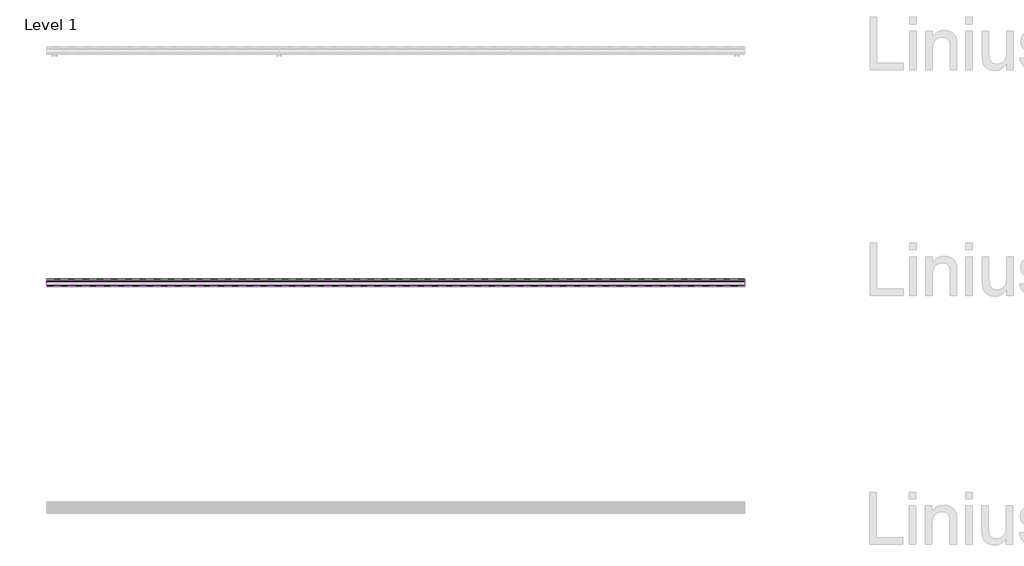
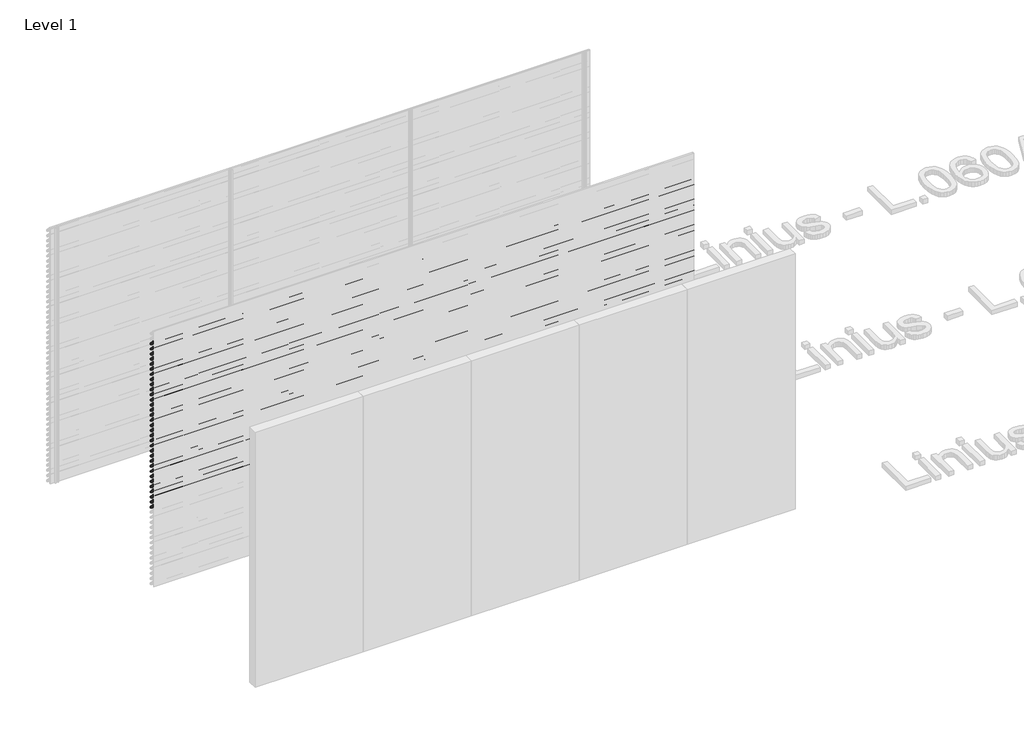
# One storey, part 137 of 153: 33 proxies.
"""IFC4 building model written with IfcOpenShell, lengths in millimetres."""

from ifc_helpers import new_model, si_unit, point, frame, frame_2d, origin, place, context, project, spatial, polyline, circle_curve, trimmed, segment, composite_curve, outline, extrude, element, save

model = new_model("IFC4")

# Units and contexts
model_context = context("Model", 3, world=origin())
ifc_project = project(units=[si_unit("LENGTHUNIT", "METRE", prefix="MILLI")], contexts=[model_context])

# Site, building, storey
site = spatial("IfcSite", under=ifc_project)
building = spatial("IfcBuilding", under=site)
storey = spatial("IfcBuildingStorey", under=building, Name="Level 1", Elevation=0.0)

# Proxies
placement = place(None, origin())
element("IfcBuildingElementProxy", 1, Name="Wall Sweeps", at=placement, inside=storey, context=model_context, shape_type="SweptSolid", body=[
    extrude(outline(composite_curve([segment(polyline([(64485.0540136, 2880.0), (64499.874191, 2878.7034025), (64549.0540136, 2825.0102749), (64549.0540136, 2813.6108187)]), True, "CONTINUOUS"), segment(trimmed(circle_curve(frame_2d((64545.7883652, 2813.897153)), 3.2781774), [point((64549.0540136, 2813.6108187))], [point((64546.4639442, 2810.6893438))], False, "CARTESIAN"), True, "CONTINUOUS"), segment(polyline([(64546.4639442, 2810.6893438), (64534.1895723, 2811.6282758), (64485.0540136, 2865.2730773), (64485.0540136, 2880.0)]), True, "CONTINUOUS")], self_intersect=False), holes=[composite_curve([segment(polyline([(64499.1621773, 2877.2599659), (64486.5540136, 2878.3630372), (64486.5540136, 2865.856213), (64534.8952036, 2813.0786805), (64546.3312542, 2812.2038762)]), True, "CONTINUOUS"), segment(trimmed(circle_curve(frame_2d((64545.7883652, 2813.897153)), 1.7781774), [point((64546.3312542, 2812.2038762))], [point((64547.5540136, 2813.6864389))], True, "CARTESIAN"), True, "CONTINUOUS"), segment(polyline([(64547.5540136, 2813.6864389), (64547.5540136, 2824.4271392), (64499.1621773, 2877.2599659)]), True, "CONTINUOUS")], self_intersect=False)]), frame((44966.6208097, 0.0, 0.0), z_axis=(1.0, 0.0, 0.0), x_axis=(0.0, 1.0, 0.0)), (0.0, 0.0, 1.0), 6000.0),
])
element("IfcBuildingElementProxy", 2, Name="Wall Sweeps", at=placement, inside=storey, context=model_context, shape_type="SweptSolid", body=[
    extrude(outline(composite_curve([segment(polyline([(64485.0540136, 2820.0), (64499.874191, 2818.7034025), (64549.0540136, 2765.0102749), (64549.0540136, 2753.6108187)]), True, "CONTINUOUS"), segment(trimmed(circle_curve(frame_2d((64545.7883652, 2753.897153)), 3.2781774), [point((64549.0540136, 2753.6108187))], [point((64546.4639442, 2750.6893438))], False, "CARTESIAN"), True, "CONTINUOUS"), segment(polyline([(64546.4639442, 2750.6893438), (64534.1895723, 2751.6282758), (64485.0540136, 2805.2730773), (64485.0540136, 2820.0)]), True, "CONTINUOUS")], self_intersect=False), holes=[composite_curve([segment(polyline([(64499.1621773, 2817.2599659), (64486.5540136, 2818.3630372), (64486.5540136, 2805.856213), (64534.8952036, 2753.0786805), (64546.3312542, 2752.2038762)]), True, "CONTINUOUS"), segment(trimmed(circle_curve(frame_2d((64545.7883652, 2753.897153)), 1.7781774), [point((64546.3312542, 2752.2038762))], [point((64547.5540136, 2753.6864389))], True, "CARTESIAN"), True, "CONTINUOUS"), segment(polyline([(64547.5540136, 2753.6864389), (64547.5540136, 2764.4271392), (64499.1621773, 2817.2599659)]), True, "CONTINUOUS")], self_intersect=False)]), frame((44966.6208097, 0.0, 0.0), z_axis=(1.0, 0.0, 0.0), x_axis=(0.0, 1.0, 0.0)), (0.0, 0.0, 1.0), 6000.0),
])
element("IfcBuildingElementProxy", 3, Name="Wall Sweeps", at=placement, inside=storey, context=model_context, shape_type="SweptSolid", body=[
    extrude(outline(composite_curve([segment(polyline([(64485.0540136, 2760.0), (64499.874191, 2758.7034025), (64549.0540136, 2705.0102749), (64549.0540136, 2693.6108187)]), True, "CONTINUOUS"), segment(trimmed(circle_curve(frame_2d((64545.7883652, 2693.897153)), 3.2781774), [point((64549.0540136, 2693.6108187))], [point((64546.4639442, 2690.6893438))], False, "CARTESIAN"), True, "CONTINUOUS"), segment(polyline([(64546.4639442, 2690.6893438), (64534.1895723, 2691.6282758), (64485.0540136, 2745.2730773), (64485.0540136, 2760.0)]), True, "CONTINUOUS")], self_intersect=False), holes=[composite_curve([segment(polyline([(64499.1621773, 2757.2599659), (64486.5540136, 2758.3630372), (64486.5540136, 2745.856213), (64534.8952036, 2693.0786805), (64546.3312542, 2692.2038762)]), True, "CONTINUOUS"), segment(trimmed(circle_curve(frame_2d((64545.7883652, 2693.897153)), 1.7781774), [point((64546.3312542, 2692.2038762))], [point((64547.5540136, 2693.6864389))], True, "CARTESIAN"), True, "CONTINUOUS"), segment(polyline([(64547.5540136, 2693.6864389), (64547.5540136, 2704.4271392), (64499.1621773, 2757.2599659)]), True, "CONTINUOUS")], self_intersect=False)]), frame((44966.6208097, 0.0, 0.0), z_axis=(1.0, 0.0, 0.0), x_axis=(0.0, 1.0, 0.0)), (0.0, 0.0, 1.0), 6000.0),
])
element("IfcBuildingElementProxy", 4, Name="Wall Sweeps", at=placement, inside=storey, context=model_context, shape_type="SweptSolid", body=[
    extrude(outline(composite_curve([segment(polyline([(64485.0540136, 2700.0), (64499.874191, 2698.7034025), (64549.0540136, 2645.0102749), (64549.0540136, 2633.6108187)]), True, "CONTINUOUS"), segment(trimmed(circle_curve(frame_2d((64545.7883652, 2633.897153)), 3.2781774), [point((64549.0540136, 2633.6108187))], [point((64546.4639442, 2630.6893438))], False, "CARTESIAN"), True, "CONTINUOUS"), segment(polyline([(64546.4639442, 2630.6893438), (64534.1895723, 2631.6282758), (64485.0540136, 2685.2730773), (64485.0540136, 2700.0)]), True, "CONTINUOUS")], self_intersect=False), holes=[composite_curve([segment(polyline([(64499.1621773, 2697.2599659), (64486.5540136, 2698.3630372), (64486.5540136, 2685.856213), (64534.8952036, 2633.0786805), (64546.3312542, 2632.2038762)]), True, "CONTINUOUS"), segment(trimmed(circle_curve(frame_2d((64545.7883652, 2633.897153)), 1.7781774), [point((64546.3312542, 2632.2038762))], [point((64547.5540136, 2633.6864389))], True, "CARTESIAN"), True, "CONTINUOUS"), segment(polyline([(64547.5540136, 2633.6864389), (64547.5540136, 2644.4271392), (64499.1621773, 2697.2599659)]), True, "CONTINUOUS")], self_intersect=False)]), frame((44966.6208097, 0.0, 0.0), z_axis=(1.0, 0.0, 0.0), x_axis=(0.0, 1.0, 0.0)), (0.0, 0.0, 1.0), 6000.0),
])
element("IfcBuildingElementProxy", 5, Name="Wall Sweeps", at=placement, inside=storey, context=model_context, shape_type="SweptSolid", body=[
    extrude(outline(composite_curve([segment(polyline([(64485.0540136, 2640.0), (64499.874191, 2638.7034025), (64549.0540136, 2585.0102749), (64549.0540136, 2573.6108187)]), True, "CONTINUOUS"), segment(trimmed(circle_curve(frame_2d((64545.7883652, 2573.897153)), 3.2781774), [point((64549.0540136, 2573.6108187))], [point((64546.4639442, 2570.6893438))], False, "CARTESIAN"), True, "CONTINUOUS"), segment(polyline([(64546.4639442, 2570.6893438), (64534.1895723, 2571.6282758), (64485.0540136, 2625.2730773), (64485.0540136, 2640.0)]), True, "CONTINUOUS")], self_intersect=False), holes=[composite_curve([segment(polyline([(64499.1621773, 2637.2599659), (64486.5540136, 2638.3630372), (64486.5540136, 2625.856213), (64534.8952036, 2573.0786805), (64546.3312542, 2572.2038762)]), True, "CONTINUOUS"), segment(trimmed(circle_curve(frame_2d((64545.7883652, 2573.897153)), 1.7781774), [point((64546.3312542, 2572.2038762))], [point((64547.5540136, 2573.6864389))], True, "CARTESIAN"), True, "CONTINUOUS"), segment(polyline([(64547.5540136, 2573.6864389), (64547.5540136, 2584.4271392), (64499.1621773, 2637.2599659)]), True, "CONTINUOUS")], self_intersect=False)]), frame((44966.6208097, 0.0, 0.0), z_axis=(1.0, 0.0, 0.0), x_axis=(0.0, 1.0, 0.0)), (0.0, 0.0, 1.0), 6000.0),
])
element("IfcBuildingElementProxy", 6, Name="Wall Sweeps", at=placement, inside=storey, context=model_context, shape_type="SweptSolid", body=[
    extrude(outline(composite_curve([segment(polyline([(64485.0540136, 2580.0), (64499.874191, 2578.7034025), (64549.0540136, 2525.0102749), (64549.0540136, 2513.6108187)]), True, "CONTINUOUS"), segment(trimmed(circle_curve(frame_2d((64545.7883652, 2513.897153)), 3.2781774), [point((64549.0540136, 2513.6108187))], [point((64546.4639442, 2510.6893438))], False, "CARTESIAN"), True, "CONTINUOUS"), segment(polyline([(64546.4639442, 2510.6893438), (64534.1895723, 2511.6282758), (64485.0540136, 2565.2730773), (64485.0540136, 2580.0)]), True, "CONTINUOUS")], self_intersect=False), holes=[composite_curve([segment(polyline([(64499.1621773, 2577.2599659), (64486.5540136, 2578.3630372), (64486.5540136, 2565.856213), (64534.8952036, 2513.0786805), (64546.3312542, 2512.2038762)]), True, "CONTINUOUS"), segment(trimmed(circle_curve(frame_2d((64545.7883652, 2513.897153)), 1.7781774), [point((64546.3312542, 2512.2038762))], [point((64547.5540136, 2513.6864389))], True, "CARTESIAN"), True, "CONTINUOUS"), segment(polyline([(64547.5540136, 2513.6864389), (64547.5540136, 2524.4271392), (64499.1621773, 2577.2599659)]), True, "CONTINUOUS")], self_intersect=False)]), frame((44966.6208097, 0.0, 0.0), z_axis=(1.0, 0.0, 0.0), x_axis=(0.0, 1.0, 0.0)), (0.0, 0.0, 1.0), 6000.0),
])
element("IfcBuildingElementProxy", 7, Name="Wall Sweeps", at=placement, inside=storey, context=model_context, shape_type="SweptSolid", body=[
    extrude(outline(composite_curve([segment(polyline([(64485.0540136, 2520.0), (64499.874191, 2518.7034025), (64549.0540136, 2465.0102749), (64549.0540136, 2453.6108187)]), True, "CONTINUOUS"), segment(trimmed(circle_curve(frame_2d((64545.7883652, 2453.897153)), 3.2781774), [point((64549.0540136, 2453.6108187))], [point((64546.4639442, 2450.6893438))], False, "CARTESIAN"), True, "CONTINUOUS"), segment(polyline([(64546.4639442, 2450.6893438), (64534.1895723, 2451.6282758), (64485.0540136, 2505.2730773), (64485.0540136, 2520.0)]), True, "CONTINUOUS")], self_intersect=False), holes=[composite_curve([segment(polyline([(64499.1621773, 2517.2599659), (64486.5540136, 2518.3630372), (64486.5540136, 2505.856213), (64534.8952036, 2453.0786805), (64546.3312542, 2452.2038762)]), True, "CONTINUOUS"), segment(trimmed(circle_curve(frame_2d((64545.7883652, 2453.897153)), 1.7781774), [point((64546.3312542, 2452.2038762))], [point((64547.5540136, 2453.6864389))], True, "CARTESIAN"), True, "CONTINUOUS"), segment(polyline([(64547.5540136, 2453.6864389), (64547.5540136, 2464.4271392), (64499.1621773, 2517.2599659)]), True, "CONTINUOUS")], self_intersect=False)]), frame((44966.6208097, 0.0, 0.0), z_axis=(1.0, 0.0, 0.0), x_axis=(0.0, 1.0, 0.0)), (0.0, 0.0, 1.0), 6000.0),
])
element("IfcBuildingElementProxy", 8, Name="Wall Sweeps", at=placement, inside=storey, context=model_context, shape_type="SweptSolid", body=[
    extrude(outline(composite_curve([segment(polyline([(64485.0540136, 2460.0), (64499.874191, 2458.7034025), (64549.0540136, 2405.0102749), (64549.0540136, 2393.6108187)]), True, "CONTINUOUS"), segment(trimmed(circle_curve(frame_2d((64545.7883652, 2393.897153)), 3.2781774), [point((64549.0540136, 2393.6108187))], [point((64546.4639442, 2390.6893438))], False, "CARTESIAN"), True, "CONTINUOUS"), segment(polyline([(64546.4639442, 2390.6893438), (64534.1895723, 2391.6282758), (64485.0540136, 2445.2730773), (64485.0540136, 2460.0)]), True, "CONTINUOUS")], self_intersect=False), holes=[composite_curve([segment(polyline([(64499.1621773, 2457.2599659), (64486.5540136, 2458.3630372), (64486.5540136, 2445.856213), (64534.8952036, 2393.0786805), (64546.3312542, 2392.2038762)]), True, "CONTINUOUS"), segment(trimmed(circle_curve(frame_2d((64545.7883652, 2393.897153)), 1.7781774), [point((64546.3312542, 2392.2038762))], [point((64547.5540136, 2393.6864389))], True, "CARTESIAN"), True, "CONTINUOUS"), segment(polyline([(64547.5540136, 2393.6864389), (64547.5540136, 2404.4271392), (64499.1621773, 2457.2599659)]), True, "CONTINUOUS")], self_intersect=False)]), frame((44966.6208097, 0.0, 0.0), z_axis=(1.0, 0.0, 0.0), x_axis=(0.0, 1.0, 0.0)), (0.0, 0.0, 1.0), 6000.0),
])
element("IfcBuildingElementProxy", 9, Name="Wall Sweeps", at=placement, inside=storey, context=model_context, shape_type="SweptSolid", body=[
    extrude(outline(composite_curve([segment(polyline([(64485.0540136, 2400.0), (64499.874191, 2398.7034025), (64549.0540136, 2345.0102749), (64549.0540136, 2333.6108187)]), True, "CONTINUOUS"), segment(trimmed(circle_curve(frame_2d((64545.7883652, 2333.897153)), 3.2781774), [point((64549.0540136, 2333.6108187))], [point((64546.4639442, 2330.6893438))], False, "CARTESIAN"), True, "CONTINUOUS"), segment(polyline([(64546.4639442, 2330.6893438), (64534.1895723, 2331.6282758), (64485.0540136, 2385.2730773), (64485.0540136, 2400.0)]), True, "CONTINUOUS")], self_intersect=False), holes=[composite_curve([segment(polyline([(64499.1621773, 2397.2599659), (64486.5540136, 2398.3630372), (64486.5540136, 2385.856213), (64534.8952036, 2333.0786805), (64546.3312542, 2332.2038762)]), True, "CONTINUOUS"), segment(trimmed(circle_curve(frame_2d((64545.7883652, 2333.897153)), 1.7781774), [point((64546.3312542, 2332.2038762))], [point((64547.5540136, 2333.6864389))], True, "CARTESIAN"), True, "CONTINUOUS"), segment(polyline([(64547.5540136, 2333.6864389), (64547.5540136, 2344.4271392), (64499.1621773, 2397.2599659)]), True, "CONTINUOUS")], self_intersect=False)]), frame((44966.6208097, 0.0, 0.0), z_axis=(1.0, 0.0, 0.0), x_axis=(0.0, 1.0, 0.0)), (0.0, 0.0, 1.0), 6000.0),
])
element("IfcBuildingElementProxy", 10, Name="Wall Sweeps", at=placement, inside=storey, context=model_context, shape_type="SweptSolid", body=[
    extrude(outline(composite_curve([segment(polyline([(64485.0540136, 2340.0), (64499.874191, 2338.7034025), (64549.0540136, 2285.0102749), (64549.0540136, 2273.6108187)]), True, "CONTINUOUS"), segment(trimmed(circle_curve(frame_2d((64545.7883652, 2273.897153)), 3.2781774), [point((64549.0540136, 2273.6108187))], [point((64546.4639442, 2270.6893438))], False, "CARTESIAN"), True, "CONTINUOUS"), segment(polyline([(64546.4639442, 2270.6893438), (64534.1895723, 2271.6282758), (64485.0540136, 2325.2730773), (64485.0540136, 2340.0)]), True, "CONTINUOUS")], self_intersect=False), holes=[composite_curve([segment(polyline([(64499.1621773, 2337.2599659), (64486.5540136, 2338.3630372), (64486.5540136, 2325.856213), (64534.8952036, 2273.0786805), (64546.3312542, 2272.2038762)]), True, "CONTINUOUS"), segment(trimmed(circle_curve(frame_2d((64545.7883652, 2273.897153)), 1.7781774), [point((64546.3312542, 2272.2038762))], [point((64547.5540136, 2273.6864389))], True, "CARTESIAN"), True, "CONTINUOUS"), segment(polyline([(64547.5540136, 2273.6864389), (64547.5540136, 2284.4271392), (64499.1621773, 2337.2599659)]), True, "CONTINUOUS")], self_intersect=False)]), frame((44966.6208097, 0.0, 0.0), z_axis=(1.0, 0.0, 0.0), x_axis=(0.0, 1.0, 0.0)), (0.0, 0.0, 1.0), 6000.0),
])
element("IfcBuildingElementProxy", 11, Name="Wall Sweeps", at=placement, inside=storey, context=model_context, shape_type="SweptSolid", body=[
    extrude(outline(composite_curve([segment(polyline([(64485.0540136, 2280.0), (64499.874191, 2278.7034025), (64549.0540136, 2225.0102749), (64549.0540136, 2213.6108187)]), True, "CONTINUOUS"), segment(trimmed(circle_curve(frame_2d((64545.7883652, 2213.897153)), 3.2781774), [point((64549.0540136, 2213.6108187))], [point((64546.4639442, 2210.6893438))], False, "CARTESIAN"), True, "CONTINUOUS"), segment(polyline([(64546.4639442, 2210.6893438), (64534.1895723, 2211.6282758), (64485.0540136, 2265.2730773), (64485.0540136, 2280.0)]), True, "CONTINUOUS")], self_intersect=False), holes=[composite_curve([segment(polyline([(64499.1621773, 2277.2599659), (64486.5540136, 2278.3630372), (64486.5540136, 2265.856213), (64534.8952036, 2213.0786805), (64546.3312542, 2212.2038762)]), True, "CONTINUOUS"), segment(trimmed(circle_curve(frame_2d((64545.7883652, 2213.897153)), 1.7781774), [point((64546.3312542, 2212.2038762))], [point((64547.5540136, 2213.6864389))], True, "CARTESIAN"), True, "CONTINUOUS"), segment(polyline([(64547.5540136, 2213.6864389), (64547.5540136, 2224.4271392), (64499.1621773, 2277.2599659)]), True, "CONTINUOUS")], self_intersect=False)]), frame((44966.6208097, 0.0, 0.0), z_axis=(1.0, 0.0, 0.0), x_axis=(0.0, 1.0, 0.0)), (0.0, 0.0, 1.0), 6000.0),
])
element("IfcBuildingElementProxy", 12, Name="Wall Sweeps", at=placement, inside=storey, context=model_context, shape_type="SweptSolid", body=[
    extrude(outline(composite_curve([segment(polyline([(64485.0540136, 2220.0), (64499.874191, 2218.7034025), (64549.0540136, 2165.0102749), (64549.0540136, 2153.6108187)]), True, "CONTINUOUS"), segment(trimmed(circle_curve(frame_2d((64545.7883652, 2153.897153)), 3.2781774), [point((64549.0540136, 2153.6108187))], [point((64546.4639442, 2150.6893438))], False, "CARTESIAN"), True, "CONTINUOUS"), segment(polyline([(64546.4639442, 2150.6893438), (64534.1895723, 2151.6282758), (64485.0540136, 2205.2730773), (64485.0540136, 2220.0)]), True, "CONTINUOUS")], self_intersect=False), holes=[composite_curve([segment(polyline([(64499.1621773, 2217.2599659), (64486.5540136, 2218.3630372), (64486.5540136, 2205.856213), (64534.8952036, 2153.0786805), (64546.3312542, 2152.2038762)]), True, "CONTINUOUS"), segment(trimmed(circle_curve(frame_2d((64545.7883652, 2153.897153)), 1.7781774), [point((64546.3312542, 2152.2038762))], [point((64547.5540136, 2153.6864389))], True, "CARTESIAN"), True, "CONTINUOUS"), segment(polyline([(64547.5540136, 2153.6864389), (64547.5540136, 2164.4271392), (64499.1621773, 2217.2599659)]), True, "CONTINUOUS")], self_intersect=False)]), frame((44966.6208097, 0.0, 0.0), z_axis=(1.0, 0.0, 0.0), x_axis=(0.0, 1.0, 0.0)), (0.0, 0.0, 1.0), 6000.0),
])
element("IfcBuildingElementProxy", 13, Name="Wall Sweeps", at=placement, inside=storey, context=model_context, shape_type="SweptSolid", body=[
    extrude(outline(composite_curve([segment(polyline([(64485.0540136, 2160.0), (64499.874191, 2158.7034025), (64549.0540136, 2105.0102749), (64549.0540136, 2093.6108187)]), True, "CONTINUOUS"), segment(trimmed(circle_curve(frame_2d((64545.7883652, 2093.897153)), 3.2781774), [point((64549.0540136, 2093.6108187))], [point((64546.4639442, 2090.6893438))], False, "CARTESIAN"), True, "CONTINUOUS"), segment(polyline([(64546.4639442, 2090.6893438), (64534.1895723, 2091.6282758), (64485.0540136, 2145.2730773), (64485.0540136, 2160.0)]), True, "CONTINUOUS")], self_intersect=False), holes=[composite_curve([segment(polyline([(64499.1621773, 2157.2599659), (64486.5540136, 2158.3630372), (64486.5540136, 2145.856213), (64534.8952036, 2093.0786805), (64546.3312542, 2092.2038762)]), True, "CONTINUOUS"), segment(trimmed(circle_curve(frame_2d((64545.7883652, 2093.897153)), 1.7781774), [point((64546.3312542, 2092.2038762))], [point((64547.5540136, 2093.6864389))], True, "CARTESIAN"), True, "CONTINUOUS"), segment(polyline([(64547.5540136, 2093.6864389), (64547.5540136, 2104.4271392), (64499.1621773, 2157.2599659)]), True, "CONTINUOUS")], self_intersect=False)]), frame((44966.6208097, 0.0, 0.0), z_axis=(1.0, 0.0, 0.0), x_axis=(0.0, 1.0, 0.0)), (0.0, 0.0, 1.0), 6000.0),
])
element("IfcBuildingElementProxy", 14, Name="Wall Sweeps", at=placement, inside=storey, context=model_context, shape_type="SweptSolid", body=[
    extrude(outline(composite_curve([segment(polyline([(64485.0540136, 2100.0), (64499.874191, 2098.7034025), (64549.0540136, 2045.0102749), (64549.0540136, 2033.6108187)]), True, "CONTINUOUS"), segment(trimmed(circle_curve(frame_2d((64545.7883652, 2033.897153)), 3.2781774), [point((64549.0540136, 2033.6108187))], [point((64546.4639442, 2030.6893438))], False, "CARTESIAN"), True, "CONTINUOUS"), segment(polyline([(64546.4639442, 2030.6893438), (64534.1895723, 2031.6282758), (64485.0540136, 2085.2730773), (64485.0540136, 2100.0)]), True, "CONTINUOUS")], self_intersect=False), holes=[composite_curve([segment(polyline([(64499.1621773, 2097.2599659), (64486.5540136, 2098.3630372), (64486.5540136, 2085.856213), (64534.8952036, 2033.0786805), (64546.3312542, 2032.2038762)]), True, "CONTINUOUS"), segment(trimmed(circle_curve(frame_2d((64545.7883652, 2033.897153)), 1.7781774), [point((64546.3312542, 2032.2038762))], [point((64547.5540136, 2033.6864389))], True, "CARTESIAN"), True, "CONTINUOUS"), segment(polyline([(64547.5540136, 2033.6864389), (64547.5540136, 2044.4271392), (64499.1621773, 2097.2599659)]), True, "CONTINUOUS")], self_intersect=False)]), frame((44966.6208097, 0.0, 0.0), z_axis=(1.0, 0.0, 0.0), x_axis=(0.0, 1.0, 0.0)), (0.0, 0.0, 1.0), 6000.0),
])
element("IfcBuildingElementProxy", 15, Name="Wall Sweeps", at=placement, inside=storey, context=model_context, shape_type="SweptSolid", body=[
    extrude(outline(composite_curve([segment(polyline([(64485.0540136, 2040.0), (64499.874191, 2038.7034025), (64549.0540136, 1985.0102749), (64549.0540136, 1973.6108187)]), True, "CONTINUOUS"), segment(trimmed(circle_curve(frame_2d((64545.7883652, 1973.897153)), 3.2781774), [point((64549.0540136, 1973.6108187))], [point((64546.4639442, 1970.6893438))], False, "CARTESIAN"), True, "CONTINUOUS"), segment(polyline([(64546.4639442, 1970.6893438), (64534.1895723, 1971.6282758), (64485.0540136, 2025.2730773), (64485.0540136, 2040.0)]), True, "CONTINUOUS")], self_intersect=False), holes=[composite_curve([segment(polyline([(64499.1621773, 2037.2599659), (64486.5540136, 2038.3630372), (64486.5540136, 2025.856213), (64534.8952036, 1973.0786805), (64546.3312542, 1972.2038762)]), True, "CONTINUOUS"), segment(trimmed(circle_curve(frame_2d((64545.7883652, 1973.897153)), 1.7781774), [point((64546.3312542, 1972.2038762))], [point((64547.5540136, 1973.6864389))], True, "CARTESIAN"), True, "CONTINUOUS"), segment(polyline([(64547.5540136, 1973.6864389), (64547.5540136, 1984.4271392), (64499.1621773, 2037.2599659)]), True, "CONTINUOUS")], self_intersect=False)]), frame((44966.6208097, 0.0, 0.0), z_axis=(1.0, 0.0, 0.0), x_axis=(0.0, 1.0, 0.0)), (0.0, 0.0, 1.0), 6000.0),
])
element("IfcBuildingElementProxy", 16, Name="Wall Sweeps", at=placement, inside=storey, context=model_context, shape_type="SweptSolid", body=[
    extrude(outline(composite_curve([segment(polyline([(64485.0540136, 1980.0), (64499.874191, 1978.7034025), (64549.0540136, 1925.0102749), (64549.0540136, 1913.6108187)]), True, "CONTINUOUS"), segment(trimmed(circle_curve(frame_2d((64545.7883652, 1913.897153)), 3.2781774), [point((64549.0540136, 1913.6108187))], [point((64546.4639442, 1910.6893438))], False, "CARTESIAN"), True, "CONTINUOUS"), segment(polyline([(64546.4639442, 1910.6893438), (64534.1895723, 1911.6282758), (64485.0540136, 1965.2730773), (64485.0540136, 1980.0)]), True, "CONTINUOUS")], self_intersect=False), holes=[composite_curve([segment(polyline([(64499.1621773, 1977.2599659), (64486.5540136, 1978.3630372), (64486.5540136, 1965.856213), (64534.8952036, 1913.0786805), (64546.3312542, 1912.2038762)]), True, "CONTINUOUS"), segment(trimmed(circle_curve(frame_2d((64545.7883652, 1913.897153)), 1.7781774), [point((64546.3312542, 1912.2038762))], [point((64547.5540136, 1913.6864389))], True, "CARTESIAN"), True, "CONTINUOUS"), segment(polyline([(64547.5540136, 1913.6864389), (64547.5540136, 1924.4271392), (64499.1621773, 1977.2599659)]), True, "CONTINUOUS")], self_intersect=False)]), frame((44966.6208097, 0.0, 0.0), z_axis=(1.0, 0.0, 0.0), x_axis=(0.0, 1.0, 0.0)), (0.0, 0.0, 1.0), 6000.0),
])
element("IfcBuildingElementProxy", 17, Name="Wall Sweeps", at=placement, inside=storey, context=model_context, shape_type="SweptSolid", body=[
    extrude(outline(composite_curve([segment(polyline([(64485.0540136, 1920.0), (64499.874191, 1918.7034025), (64549.0540136, 1865.0102749), (64549.0540136, 1853.6108187)]), True, "CONTINUOUS"), segment(trimmed(circle_curve(frame_2d((64545.7883652, 1853.897153)), 3.2781774), [point((64549.0540136, 1853.6108187))], [point((64546.4639442, 1850.6893438))], False, "CARTESIAN"), True, "CONTINUOUS"), segment(polyline([(64546.4639442, 1850.6893438), (64534.1895723, 1851.6282758), (64485.0540136, 1905.2730773), (64485.0540136, 1920.0)]), True, "CONTINUOUS")], self_intersect=False), holes=[composite_curve([segment(polyline([(64499.1621773, 1917.2599659), (64486.5540136, 1918.3630372), (64486.5540136, 1905.856213), (64534.8952036, 1853.0786805), (64546.3312542, 1852.2038762)]), True, "CONTINUOUS"), segment(trimmed(circle_curve(frame_2d((64545.7883652, 1853.897153)), 1.7781774), [point((64546.3312542, 1852.2038762))], [point((64547.5540136, 1853.6864389))], True, "CARTESIAN"), True, "CONTINUOUS"), segment(polyline([(64547.5540136, 1853.6864389), (64547.5540136, 1864.4271392), (64499.1621773, 1917.2599659)]), True, "CONTINUOUS")], self_intersect=False)]), frame((44966.6208097, 0.0, 0.0), z_axis=(1.0, 0.0, 0.0), x_axis=(0.0, 1.0, 0.0)), (0.0, 0.0, 1.0), 6000.0),
])
element("IfcBuildingElementProxy", 18, Name="Wall Sweeps", at=placement, inside=storey, context=model_context, shape_type="SweptSolid", body=[
    extrude(outline(composite_curve([segment(polyline([(64485.0540136, 1860.0), (64499.874191, 1858.7034025), (64549.0540136, 1805.0102749), (64549.0540136, 1793.6108187)]), True, "CONTINUOUS"), segment(trimmed(circle_curve(frame_2d((64545.7883652, 1793.897153)), 3.2781774), [point((64549.0540136, 1793.6108187))], [point((64546.4639442, 1790.6893438))], False, "CARTESIAN"), True, "CONTINUOUS"), segment(polyline([(64546.4639442, 1790.6893438), (64534.1895723, 1791.6282758), (64485.0540136, 1845.2730773), (64485.0540136, 1860.0)]), True, "CONTINUOUS")], self_intersect=False), holes=[composite_curve([segment(polyline([(64499.1621773, 1857.2599659), (64486.5540136, 1858.3630372), (64486.5540136, 1845.856213), (64534.8952036, 1793.0786805), (64546.3312542, 1792.2038762)]), True, "CONTINUOUS"), segment(trimmed(circle_curve(frame_2d((64545.7883652, 1793.897153)), 1.7781774), [point((64546.3312542, 1792.2038762))], [point((64547.5540136, 1793.6864389))], True, "CARTESIAN"), True, "CONTINUOUS"), segment(polyline([(64547.5540136, 1793.6864389), (64547.5540136, 1804.4271392), (64499.1621773, 1857.2599659)]), True, "CONTINUOUS")], self_intersect=False)]), frame((44966.6208097, 0.0, 0.0), z_axis=(1.0, 0.0, 0.0), x_axis=(0.0, 1.0, 0.0)), (0.0, 0.0, 1.0), 6000.0),
])
element("IfcBuildingElementProxy", 19, Name="Wall Sweeps", at=placement, inside=storey, context=model_context, shape_type="SweptSolid", body=[
    extrude(outline(composite_curve([segment(polyline([(64485.0540136, 1800.0), (64499.874191, 1798.7034025), (64549.0540136, 1745.0102749), (64549.0540136, 1733.6108187)]), True, "CONTINUOUS"), segment(trimmed(circle_curve(frame_2d((64545.7883652, 1733.897153)), 3.2781774), [point((64549.0540136, 1733.6108187))], [point((64546.4639442, 1730.6893438))], False, "CARTESIAN"), True, "CONTINUOUS"), segment(polyline([(64546.4639442, 1730.6893438), (64534.1895723, 1731.6282758), (64485.0540136, 1785.2730773), (64485.0540136, 1800.0)]), True, "CONTINUOUS")], self_intersect=False), holes=[composite_curve([segment(polyline([(64499.1621773, 1797.2599659), (64486.5540136, 1798.3630372), (64486.5540136, 1785.856213), (64534.8952036, 1733.0786805), (64546.3312542, 1732.2038762)]), True, "CONTINUOUS"), segment(trimmed(circle_curve(frame_2d((64545.7883652, 1733.897153)), 1.7781774), [point((64546.3312542, 1732.2038762))], [point((64547.5540136, 1733.6864389))], True, "CARTESIAN"), True, "CONTINUOUS"), segment(polyline([(64547.5540136, 1733.6864389), (64547.5540136, 1744.4271392), (64499.1621773, 1797.2599659)]), True, "CONTINUOUS")], self_intersect=False)]), frame((44966.6208097, 0.0, 0.0), z_axis=(1.0, 0.0, 0.0), x_axis=(0.0, 1.0, 0.0)), (0.0, 0.0, 1.0), 6000.0),
])
element("IfcBuildingElementProxy", 20, Name="Wall Sweeps", at=placement, inside=storey, context=model_context, shape_type="SweptSolid", body=[
    extrude(outline(composite_curve([segment(polyline([(64485.0540136, 1740.0), (64499.874191, 1738.7034025), (64549.0540136, 1685.0102749), (64549.0540136, 1673.6108187)]), True, "CONTINUOUS"), segment(trimmed(circle_curve(frame_2d((64545.7883652, 1673.897153)), 3.2781774), [point((64549.0540136, 1673.6108187))], [point((64546.4639442, 1670.6893438))], False, "CARTESIAN"), True, "CONTINUOUS"), segment(polyline([(64546.4639442, 1670.6893438), (64534.1895723, 1671.6282758), (64485.0540136, 1725.2730773), (64485.0540136, 1740.0)]), True, "CONTINUOUS")], self_intersect=False), holes=[composite_curve([segment(polyline([(64499.1621773, 1737.2599659), (64486.5540136, 1738.3630372), (64486.5540136, 1725.856213), (64534.8952036, 1673.0786805), (64546.3312542, 1672.2038762)]), True, "CONTINUOUS"), segment(trimmed(circle_curve(frame_2d((64545.7883652, 1673.897153)), 1.7781774), [point((64546.3312542, 1672.2038762))], [point((64547.5540136, 1673.6864389))], True, "CARTESIAN"), True, "CONTINUOUS"), segment(polyline([(64547.5540136, 1673.6864389), (64547.5540136, 1684.4271392), (64499.1621773, 1737.2599659)]), True, "CONTINUOUS")], self_intersect=False)]), frame((44966.6208097, 0.0, 0.0), z_axis=(1.0, 0.0, 0.0), x_axis=(0.0, 1.0, 0.0)), (0.0, 0.0, 1.0), 6000.0),
])
element("IfcBuildingElementProxy", 21, Name="Wall Sweeps", at=placement, inside=storey, context=model_context, shape_type="SweptSolid", body=[
    extrude(outline(composite_curve([segment(polyline([(64485.0540136, 1680.0), (64499.874191, 1678.7034025), (64549.0540136, 1625.0102749), (64549.0540136, 1613.6108187)]), True, "CONTINUOUS"), segment(trimmed(circle_curve(frame_2d((64545.7883652, 1613.897153)), 3.2781774), [point((64549.0540136, 1613.6108187))], [point((64546.4639442, 1610.6893438))], False, "CARTESIAN"), True, "CONTINUOUS"), segment(polyline([(64546.4639442, 1610.6893438), (64534.1895723, 1611.6282758), (64485.0540136, 1665.2730773), (64485.0540136, 1680.0)]), True, "CONTINUOUS")], self_intersect=False), holes=[composite_curve([segment(polyline([(64499.1621773, 1677.2599659), (64486.5540136, 1678.3630372), (64486.5540136, 1665.856213), (64534.8952036, 1613.0786805), (64546.3312542, 1612.2038762)]), True, "CONTINUOUS"), segment(trimmed(circle_curve(frame_2d((64545.7883652, 1613.897153)), 1.7781774), [point((64546.3312542, 1612.2038762))], [point((64547.5540136, 1613.6864389))], True, "CARTESIAN"), True, "CONTINUOUS"), segment(polyline([(64547.5540136, 1613.6864389), (64547.5540136, 1624.4271392), (64499.1621773, 1677.2599659)]), True, "CONTINUOUS")], self_intersect=False)]), frame((44966.6208097, 0.0, 0.0), z_axis=(1.0, 0.0, 0.0), x_axis=(0.0, 1.0, 0.0)), (0.0, 0.0, 1.0), 6000.0),
])
element("IfcBuildingElementProxy", 22, Name="Wall Sweeps", at=placement, inside=storey, context=model_context, shape_type="SweptSolid", body=[
    extrude(outline(composite_curve([segment(polyline([(64485.0540136, 1620.0), (64499.874191, 1618.7034025), (64549.0540136, 1565.0102749), (64549.0540136, 1553.6108187)]), True, "CONTINUOUS"), segment(trimmed(circle_curve(frame_2d((64545.7883652, 1553.897153)), 3.2781774), [point((64549.0540136, 1553.6108187))], [point((64546.4639442, 1550.6893438))], False, "CARTESIAN"), True, "CONTINUOUS"), segment(polyline([(64546.4639442, 1550.6893438), (64534.1895723, 1551.6282758), (64485.0540136, 1605.2730773), (64485.0540136, 1620.0)]), True, "CONTINUOUS")], self_intersect=False), holes=[composite_curve([segment(polyline([(64499.1621773, 1617.2599659), (64486.5540136, 1618.3630372), (64486.5540136, 1605.856213), (64534.8952036, 1553.0786805), (64546.3312542, 1552.2038762)]), True, "CONTINUOUS"), segment(trimmed(circle_curve(frame_2d((64545.7883652, 1553.897153)), 1.7781774), [point((64546.3312542, 1552.2038762))], [point((64547.5540136, 1553.6864389))], True, "CARTESIAN"), True, "CONTINUOUS"), segment(polyline([(64547.5540136, 1553.6864389), (64547.5540136, 1564.4271392), (64499.1621773, 1617.2599659)]), True, "CONTINUOUS")], self_intersect=False)]), frame((44966.6208097, 0.0, 0.0), z_axis=(1.0, 0.0, 0.0), x_axis=(0.0, 1.0, 0.0)), (0.0, 0.0, 1.0), 6000.0),
])
element("IfcBuildingElementProxy", 23, Name="Wall Sweeps", at=placement, inside=storey, context=model_context, shape_type="SweptSolid", body=[
    extrude(outline(composite_curve([segment(polyline([(64485.0540136, 1560.0), (64499.874191, 1558.7034025), (64549.0540136, 1505.0102749), (64549.0540136, 1493.6108187)]), True, "CONTINUOUS"), segment(trimmed(circle_curve(frame_2d((64545.7883652, 1493.897153)), 3.2781774), [point((64549.0540136, 1493.6108187))], [point((64546.4639442, 1490.6893438))], False, "CARTESIAN"), True, "CONTINUOUS"), segment(polyline([(64546.4639442, 1490.6893438), (64534.1895723, 1491.6282758), (64485.0540136, 1545.2730773), (64485.0540136, 1560.0)]), True, "CONTINUOUS")], self_intersect=False), holes=[composite_curve([segment(polyline([(64499.1621773, 1557.2599659), (64486.5540136, 1558.3630372), (64486.5540136, 1545.856213), (64534.8952036, 1493.0786805), (64546.3312542, 1492.2038762)]), True, "CONTINUOUS"), segment(trimmed(circle_curve(frame_2d((64545.7883652, 1493.897153)), 1.7781774), [point((64546.3312542, 1492.2038762))], [point((64547.5540136, 1493.6864389))], True, "CARTESIAN"), True, "CONTINUOUS"), segment(polyline([(64547.5540136, 1493.6864389), (64547.5540136, 1504.4271392), (64499.1621773, 1557.2599659)]), True, "CONTINUOUS")], self_intersect=False)]), frame((44966.6208097, 0.0, 0.0), z_axis=(1.0, 0.0, 0.0), x_axis=(0.0, 1.0, 0.0)), (0.0, 0.0, 1.0), 6000.0),
])
element("IfcBuildingElementProxy", 24, Name="Wall Sweeps", at=placement, inside=storey, context=model_context, shape_type="SweptSolid", body=[
    extrude(outline(composite_curve([segment(polyline([(64485.0540136, 1500.0), (64499.874191, 1498.7034025), (64549.0540136, 1445.0102749), (64549.0540136, 1433.6108187)]), True, "CONTINUOUS"), segment(trimmed(circle_curve(frame_2d((64545.7883652, 1433.897153)), 3.2781774), [point((64549.0540136, 1433.6108187))], [point((64546.4639442, 1430.6893438))], False, "CARTESIAN"), True, "CONTINUOUS"), segment(polyline([(64546.4639442, 1430.6893438), (64534.1895723, 1431.6282758), (64485.0540136, 1485.2730773), (64485.0540136, 1500.0)]), True, "CONTINUOUS")], self_intersect=False), holes=[composite_curve([segment(polyline([(64499.1621773, 1497.2599659), (64486.5540136, 1498.3630372), (64486.5540136, 1485.856213), (64534.8952036, 1433.0786805), (64546.3312542, 1432.2038762)]), True, "CONTINUOUS"), segment(trimmed(circle_curve(frame_2d((64545.7883652, 1433.897153)), 1.7781774), [point((64546.3312542, 1432.2038762))], [point((64547.5540136, 1433.6864389))], True, "CARTESIAN"), True, "CONTINUOUS"), segment(polyline([(64547.5540136, 1433.6864389), (64547.5540136, 1444.4271392), (64499.1621773, 1497.2599659)]), True, "CONTINUOUS")], self_intersect=False)]), frame((44966.6208097, 0.0, 0.0), z_axis=(1.0, 0.0, 0.0), x_axis=(0.0, 1.0, 0.0)), (0.0, 0.0, 1.0), 6000.0),
])
element("IfcBuildingElementProxy", 25, Name="Wall Sweeps", at=placement, inside=storey, context=model_context, shape_type="SweptSolid", body=[
    extrude(outline(composite_curve([segment(polyline([(64485.0540136, 1440.0), (64499.874191, 1438.7034025), (64549.0540136, 1385.0102749), (64549.0540136, 1373.6108187)]), True, "CONTINUOUS"), segment(trimmed(circle_curve(frame_2d((64545.7883652, 1373.897153)), 3.2781774), [point((64549.0540136, 1373.6108187))], [point((64546.4639442, 1370.6893438))], False, "CARTESIAN"), True, "CONTINUOUS"), segment(polyline([(64546.4639442, 1370.6893438), (64534.1895723, 1371.6282758), (64485.0540136, 1425.2730773), (64485.0540136, 1440.0)]), True, "CONTINUOUS")], self_intersect=False), holes=[composite_curve([segment(polyline([(64499.1621773, 1437.2599659), (64486.5540136, 1438.3630372), (64486.5540136, 1425.856213), (64534.8952036, 1373.0786805), (64546.3312542, 1372.2038762)]), True, "CONTINUOUS"), segment(trimmed(circle_curve(frame_2d((64545.7883652, 1373.897153)), 1.7781774), [point((64546.3312542, 1372.2038762))], [point((64547.5540136, 1373.6864389))], True, "CARTESIAN"), True, "CONTINUOUS"), segment(polyline([(64547.5540136, 1373.6864389), (64547.5540136, 1384.4271392), (64499.1621773, 1437.2599659)]), True, "CONTINUOUS")], self_intersect=False)]), frame((44966.6208097, 0.0, 0.0), z_axis=(1.0, 0.0, 0.0), x_axis=(0.0, 1.0, 0.0)), (0.0, 0.0, 1.0), 6000.0),
])
element("IfcBuildingElementProxy", 26, Name="Wall Sweeps", at=placement, inside=storey, context=model_context, shape_type="SweptSolid", body=[
    extrude(outline(composite_curve([segment(polyline([(64485.0540136, 1380.0), (64499.874191, 1378.7034025), (64549.0540136, 1325.0102749), (64549.0540136, 1313.6108187)]), True, "CONTINUOUS"), segment(trimmed(circle_curve(frame_2d((64545.7883652, 1313.897153)), 3.2781774), [point((64549.0540136, 1313.6108187))], [point((64546.4639442, 1310.6893438))], False, "CARTESIAN"), True, "CONTINUOUS"), segment(polyline([(64546.4639442, 1310.6893438), (64534.1895723, 1311.6282758), (64485.0540136, 1365.2730773), (64485.0540136, 1380.0)]), True, "CONTINUOUS")], self_intersect=False), holes=[composite_curve([segment(polyline([(64499.1621773, 1377.2599659), (64486.5540136, 1378.3630372), (64486.5540136, 1365.856213), (64534.8952036, 1313.0786805), (64546.3312542, 1312.2038762)]), True, "CONTINUOUS"), segment(trimmed(circle_curve(frame_2d((64545.7883652, 1313.897153)), 1.7781774), [point((64546.3312542, 1312.2038762))], [point((64547.5540136, 1313.6864389))], True, "CARTESIAN"), True, "CONTINUOUS"), segment(polyline([(64547.5540136, 1313.6864389), (64547.5540136, 1324.4271392), (64499.1621773, 1377.2599659)]), True, "CONTINUOUS")], self_intersect=False)]), frame((44966.6208097, 0.0, 0.0), z_axis=(1.0, 0.0, 0.0), x_axis=(0.0, 1.0, 0.0)), (0.0, 0.0, 1.0), 6000.0),
])
element("IfcBuildingElementProxy", 27, Name="Wall Sweeps", at=placement, inside=storey, context=model_context, shape_type="SweptSolid", body=[
    extrude(outline(composite_curve([segment(polyline([(64485.0540136, 1320.0), (64499.874191, 1318.7034025), (64549.0540136, 1265.0102749), (64549.0540136, 1253.6108187)]), True, "CONTINUOUS"), segment(trimmed(circle_curve(frame_2d((64545.7883652, 1253.897153)), 3.2781774), [point((64549.0540136, 1253.6108187))], [point((64546.4639442, 1250.6893438))], False, "CARTESIAN"), True, "CONTINUOUS"), segment(polyline([(64546.4639442, 1250.6893438), (64534.1895723, 1251.6282758), (64485.0540136, 1305.2730773), (64485.0540136, 1320.0)]), True, "CONTINUOUS")], self_intersect=False), holes=[composite_curve([segment(polyline([(64499.1621773, 1317.2599659), (64486.5540136, 1318.3630372), (64486.5540136, 1305.856213), (64534.8952036, 1253.0786805), (64546.3312542, 1252.2038762)]), True, "CONTINUOUS"), segment(trimmed(circle_curve(frame_2d((64545.7883652, 1253.897153)), 1.7781774), [point((64546.3312542, 1252.2038762))], [point((64547.5540136, 1253.6864389))], True, "CARTESIAN"), True, "CONTINUOUS"), segment(polyline([(64547.5540136, 1253.6864389), (64547.5540136, 1264.4271392), (64499.1621773, 1317.2599659)]), True, "CONTINUOUS")], self_intersect=False)]), frame((44966.6208097, 0.0, 0.0), z_axis=(1.0, 0.0, 0.0), x_axis=(0.0, 1.0, 0.0)), (0.0, 0.0, 1.0), 6000.0),
])
element("IfcBuildingElementProxy", 28, Name="Wall Sweeps", at=placement, inside=storey, context=model_context, shape_type="SweptSolid", body=[
    extrude(outline(composite_curve([segment(polyline([(64485.0540136, 1260.0), (64499.874191, 1258.7034025), (64549.0540136, 1205.0102749), (64549.0540136, 1193.6108187)]), True, "CONTINUOUS"), segment(trimmed(circle_curve(frame_2d((64545.7883652, 1193.897153)), 3.2781774), [point((64549.0540136, 1193.6108187))], [point((64546.4639442, 1190.6893438))], False, "CARTESIAN"), True, "CONTINUOUS"), segment(polyline([(64546.4639442, 1190.6893438), (64534.1895723, 1191.6282758), (64485.0540136, 1245.2730773), (64485.0540136, 1260.0)]), True, "CONTINUOUS")], self_intersect=False), holes=[composite_curve([segment(polyline([(64499.1621773, 1257.2599659), (64486.5540136, 1258.3630372), (64486.5540136, 1245.856213), (64534.8952036, 1193.0786805), (64546.3312542, 1192.2038762)]), True, "CONTINUOUS"), segment(trimmed(circle_curve(frame_2d((64545.7883652, 1193.897153)), 1.7781774), [point((64546.3312542, 1192.2038762))], [point((64547.5540136, 1193.6864389))], True, "CARTESIAN"), True, "CONTINUOUS"), segment(polyline([(64547.5540136, 1193.6864389), (64547.5540136, 1204.4271392), (64499.1621773, 1257.2599659)]), True, "CONTINUOUS")], self_intersect=False)]), frame((44966.6208097, 0.0, 0.0), z_axis=(1.0, 0.0, 0.0), x_axis=(0.0, 1.0, 0.0)), (0.0, 0.0, 1.0), 6000.0),
])
element("IfcBuildingElementProxy", 29, Name="Wall Sweeps", at=placement, inside=storey, context=model_context, shape_type="SweptSolid", body=[
    extrude(outline(composite_curve([segment(polyline([(64485.0540136, 1200.0), (64499.874191, 1198.7034025), (64549.0540136, 1145.0102749), (64549.0540136, 1133.6108187)]), True, "CONTINUOUS"), segment(trimmed(circle_curve(frame_2d((64545.7883652, 1133.897153)), 3.2781774), [point((64549.0540136, 1133.6108187))], [point((64546.4639442, 1130.6893438))], False, "CARTESIAN"), True, "CONTINUOUS"), segment(polyline([(64546.4639442, 1130.6893438), (64534.1895723, 1131.6282758), (64485.0540136, 1185.2730773), (64485.0540136, 1200.0)]), True, "CONTINUOUS")], self_intersect=False), holes=[composite_curve([segment(polyline([(64499.1621773, 1197.2599659), (64486.5540136, 1198.3630372), (64486.5540136, 1185.856213), (64534.8952036, 1133.0786805), (64546.3312542, 1132.2038762)]), True, "CONTINUOUS"), segment(trimmed(circle_curve(frame_2d((64545.7883652, 1133.897153)), 1.7781774), [point((64546.3312542, 1132.2038762))], [point((64547.5540136, 1133.6864389))], True, "CARTESIAN"), True, "CONTINUOUS"), segment(polyline([(64547.5540136, 1133.6864389), (64547.5540136, 1144.4271392), (64499.1621773, 1197.2599659)]), True, "CONTINUOUS")], self_intersect=False)]), frame((44966.6208097, 0.0, 0.0), z_axis=(1.0, 0.0, 0.0), x_axis=(0.0, 1.0, 0.0)), (0.0, 0.0, 1.0), 6000.0),
])
element("IfcBuildingElementProxy", 30, Name="Wall Sweeps", at=placement, inside=storey, context=model_context, shape_type="SweptSolid", body=[
    extrude(outline(composite_curve([segment(polyline([(64485.0540136, 1140.0), (64499.874191, 1138.7034025), (64549.0540136, 1085.0102749), (64549.0540136, 1073.6108187)]), True, "CONTINUOUS"), segment(trimmed(circle_curve(frame_2d((64545.7883652, 1073.897153)), 3.2781774), [point((64549.0540136, 1073.6108187))], [point((64546.4639442, 1070.6893438))], False, "CARTESIAN"), True, "CONTINUOUS"), segment(polyline([(64546.4639442, 1070.6893438), (64534.1895723, 1071.6282758), (64485.0540136, 1125.2730773), (64485.0540136, 1140.0)]), True, "CONTINUOUS")], self_intersect=False), holes=[composite_curve([segment(polyline([(64499.1621773, 1137.2599659), (64486.5540136, 1138.3630372), (64486.5540136, 1125.856213), (64534.8952036, 1073.0786805), (64546.3312542, 1072.2038762)]), True, "CONTINUOUS"), segment(trimmed(circle_curve(frame_2d((64545.7883652, 1073.897153)), 1.7781774), [point((64546.3312542, 1072.2038762))], [point((64547.5540136, 1073.6864389))], True, "CARTESIAN"), True, "CONTINUOUS"), segment(polyline([(64547.5540136, 1073.6864389), (64547.5540136, 1084.4271392), (64499.1621773, 1137.2599659)]), True, "CONTINUOUS")], self_intersect=False)]), frame((44966.6208097, 0.0, 0.0), z_axis=(1.0, 0.0, 0.0), x_axis=(0.0, 1.0, 0.0)), (0.0, 0.0, 1.0), 6000.0),
])
element("IfcBuildingElementProxy", 31, Name="Wall Sweeps", at=placement, inside=storey, context=model_context, shape_type="SweptSolid", body=[
    extrude(outline(composite_curve([segment(polyline([(64485.0540136, 1080.0), (64499.874191, 1078.7034025), (64549.0540136, 1025.0102749), (64549.0540136, 1013.6108187)]), True, "CONTINUOUS"), segment(trimmed(circle_curve(frame_2d((64545.7883652, 1013.897153)), 3.2781774), [point((64549.0540136, 1013.6108187))], [point((64546.4639442, 1010.6893438))], False, "CARTESIAN"), True, "CONTINUOUS"), segment(polyline([(64546.4639442, 1010.6893438), (64534.1895723, 1011.6282758), (64485.0540136, 1065.2730773), (64485.0540136, 1080.0)]), True, "CONTINUOUS")], self_intersect=False), holes=[composite_curve([segment(polyline([(64499.1621773, 1077.2599659), (64486.5540136, 1078.3630372), (64486.5540136, 1065.856213), (64534.8952036, 1013.0786805), (64546.3312542, 1012.2038762)]), True, "CONTINUOUS"), segment(trimmed(circle_curve(frame_2d((64545.7883652, 1013.897153)), 1.7781774), [point((64546.3312542, 1012.2038762))], [point((64547.5540136, 1013.6864389))], True, "CARTESIAN"), True, "CONTINUOUS"), segment(polyline([(64547.5540136, 1013.6864389), (64547.5540136, 1024.4271392), (64499.1621773, 1077.2599659)]), True, "CONTINUOUS")], self_intersect=False)]), frame((44966.6208097, 0.0, 0.0), z_axis=(1.0, 0.0, 0.0), x_axis=(0.0, 1.0, 0.0)), (0.0, 0.0, 1.0), 6000.0),
])
element("IfcBuildingElementProxy", 32, Name="Wall Sweeps", at=placement, inside=storey, context=model_context, shape_type="SweptSolid", body=[
    extrude(outline(composite_curve([segment(polyline([(64485.0540136, 1020.0), (64499.874191, 1018.7034025), (64549.0540136, 965.0102749), (64549.0540136, 953.6108187)]), True, "CONTINUOUS"), segment(trimmed(circle_curve(frame_2d((64545.7883652, 953.897153)), 3.2781774), [point((64549.0540136, 953.6108187))], [point((64546.4639442, 950.6893438))], False, "CARTESIAN"), True, "CONTINUOUS"), segment(polyline([(64546.4639442, 950.6893438), (64534.1895723, 951.6282758), (64485.0540136, 1005.2730773), (64485.0540136, 1020.0)]), True, "CONTINUOUS")], self_intersect=False), holes=[composite_curve([segment(polyline([(64499.1621773, 1017.2599659), (64486.5540136, 1018.3630372), (64486.5540136, 1005.856213), (64534.8952036, 953.0786805), (64546.3312542, 952.2038762)]), True, "CONTINUOUS"), segment(trimmed(circle_curve(frame_2d((64545.7883652, 953.897153)), 1.7781774), [point((64546.3312542, 952.2038762))], [point((64547.5540136, 953.6864389))], True, "CARTESIAN"), True, "CONTINUOUS"), segment(polyline([(64547.5540136, 953.6864389), (64547.5540136, 964.4271392), (64499.1621773, 1017.2599659)]), True, "CONTINUOUS")], self_intersect=False)]), frame((44966.6208097, 0.0, 0.0), z_axis=(1.0, 0.0, 0.0), x_axis=(0.0, 1.0, 0.0)), (0.0, 0.0, 1.0), 6000.0),
])
element("IfcBuildingElementProxy", 33, Name="Wall Sweeps", at=placement, inside=storey, context=model_context, shape_type="SweptSolid", body=[
    extrude(outline(composite_curve([segment(polyline([(64485.0540136, 960.0), (64499.874191, 958.7034025), (64549.0540136, 905.0102749), (64549.0540136, 893.6108187)]), True, "CONTINUOUS"), segment(trimmed(circle_curve(frame_2d((64545.7883652, 893.897153)), 3.2781774), [point((64549.0540136, 893.6108187))], [point((64546.4639442, 890.6893438))], False, "CARTESIAN"), True, "CONTINUOUS"), segment(polyline([(64546.4639442, 890.6893438), (64534.1895723, 891.6282758), (64485.0540136, 945.2730773), (64485.0540136, 960.0)]), True, "CONTINUOUS")], self_intersect=False), holes=[composite_curve([segment(polyline([(64499.1621773, 957.2599659), (64486.5540136, 958.3630372), (64486.5540136, 945.856213), (64534.8952036, 893.0786805), (64546.3312542, 892.2038762)]), True, "CONTINUOUS"), segment(trimmed(circle_curve(frame_2d((64545.7883652, 893.897153)), 1.7781774), [point((64546.3312542, 892.2038762))], [point((64547.5540136, 893.6864389))], True, "CARTESIAN"), True, "CONTINUOUS"), segment(polyline([(64547.5540136, 893.6864389), (64547.5540136, 904.4271392), (64499.1621773, 957.2599659)]), True, "CONTINUOUS")], self_intersect=False)]), frame((44966.6208097, 0.0, 0.0), z_axis=(1.0, 0.0, 0.0), x_axis=(0.0, 1.0, 0.0)), (0.0, 0.0, 1.0), 6000.0),
])

save(model, "model.ifc")
